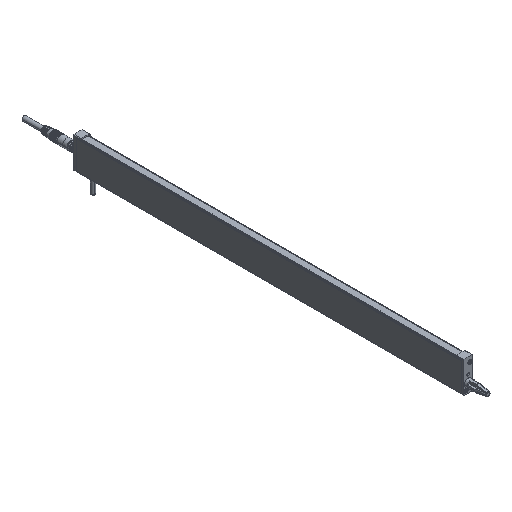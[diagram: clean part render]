
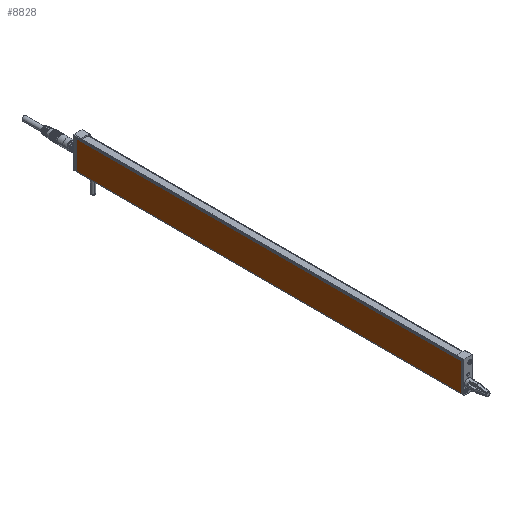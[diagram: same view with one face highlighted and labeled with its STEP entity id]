
A CAD part, isometric view. The second image highlights one B-rep face of the part: STEP entity #8828.
In plain terms, the highlighted planar face has unit normal (-1, 0, 0).
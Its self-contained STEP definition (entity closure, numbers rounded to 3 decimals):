
#1165 = EDGE_CURVE ( 'NONE', #11480, #14043, #4351, .T. ) ;
#2314 = DIRECTION ( 'NONE',  ( -1., 0., 0. ) ) ;
#2964 = VECTOR ( 'NONE', #4214, 1000. ) ;
#4214 = DIRECTION ( 'NONE',  ( 0., 0., -1. ) ) ;
#4351 = LINE ( 'NONE', #19987, #29629 ) ;
#4405 = CARTESIAN_POINT ( 'NONE',  ( -9., 0., 28.5 ) ) ;
#4759 = DIRECTION ( 'NONE',  ( 0., -1., 0. ) ) ;
#5546 = CARTESIAN_POINT ( 'NONE',  ( -9., 383., 0.5 ) ) ;
#6944 = FACE_OUTER_BOUND ( 'NONE', #9772, .T. ) ;
#7069 = DIRECTION ( 'NONE',  ( 0., 0., -1. ) ) ;
#7986 = ORIENTED_EDGE ( 'NONE', *, *, #33356, .T. ) ;
#8828 = ADVANCED_FACE ( 'NONE', ( #6944 ), #15302, .T. ) ;
#9244 = CARTESIAN_POINT ( 'NONE',  ( -9., 0., 28.5 ) ) ;
#9772 = EDGE_LOOP ( 'NONE', ( #15319, #22441, #7986, #22267 ) ) ;
#11480 = VERTEX_POINT ( 'NONE', #5546 ) ;
#11832 = CARTESIAN_POINT ( 'NONE',  ( -9., 383., 28.5 ) ) ;
#12348 = VERTEX_POINT ( 'NONE', #32111 ) ;
#14043 = VERTEX_POINT ( 'NONE', #33228 ) ;
#14539 = VECTOR ( 'NONE', #7069, 1000. ) ;
#14670 = DIRECTION ( 'NONE',  ( 0., -1., 0. ) ) ;
#15302 = PLANE ( 'NONE',  #16078 ) ;
#15319 = ORIENTED_EDGE ( 'NONE', *, *, #30750, .F. ) ;
#16078 = AXIS2_PLACEMENT_3D ( 'NONE', #28126, #2314, #17904 ) ;
#17904 = DIRECTION ( 'NONE',  ( 0., -1., 0. ) ) ;
#19987 = CARTESIAN_POINT ( 'NONE',  ( -9., 383., 0.5 ) ) ;
#21393 = LINE ( 'NONE', #11832, #2964 ) ;
#21413 = LINE ( 'NONE', #4405, #14539 ) ;
#22267 = ORIENTED_EDGE ( 'NONE', *, *, #1165, .T. ) ;
#22441 = ORIENTED_EDGE ( 'NONE', *, *, #30675, .F. ) ;
#25393 = CARTESIAN_POINT ( 'NONE',  ( -9., 383., 28.5 ) ) ;
#26235 = LINE ( 'NONE', #25393, #32823 ) ;
#28126 = CARTESIAN_POINT ( 'NONE',  ( -9., 383., 28.5 ) ) ;
#29629 = VECTOR ( 'NONE', #14670, 1000. ) ;
#30675 = EDGE_CURVE ( 'NONE', #12348, #33722, #26235, .T. ) ;
#30750 = EDGE_CURVE ( 'NONE', #33722, #14043, #21413, .T. ) ;
#32111 = CARTESIAN_POINT ( 'NONE',  ( -9., 383., 28.5 ) ) ;
#32823 = VECTOR ( 'NONE', #4759, 1000. ) ;
#33228 = CARTESIAN_POINT ( 'NONE',  ( -9., 0., 0.5 ) ) ;
#33356 = EDGE_CURVE ( 'NONE', #12348, #11480, #21393, .T. ) ;
#33722 = VERTEX_POINT ( 'NONE', #9244 ) ;
